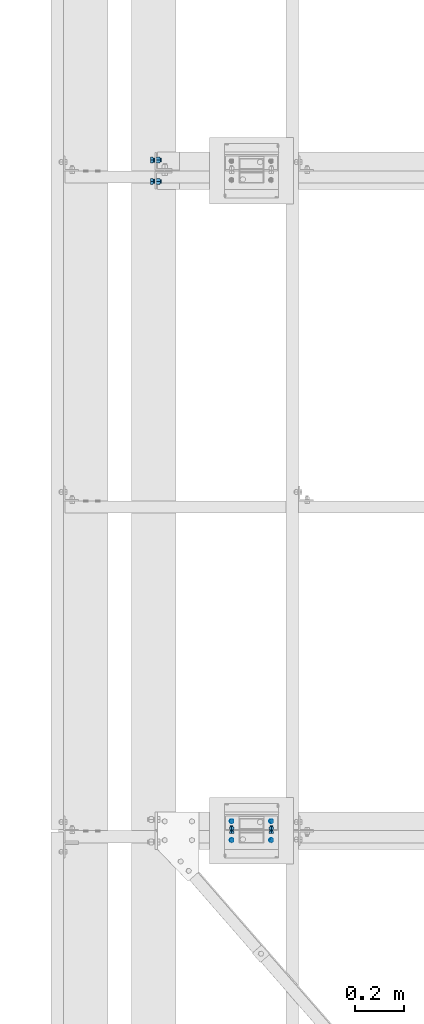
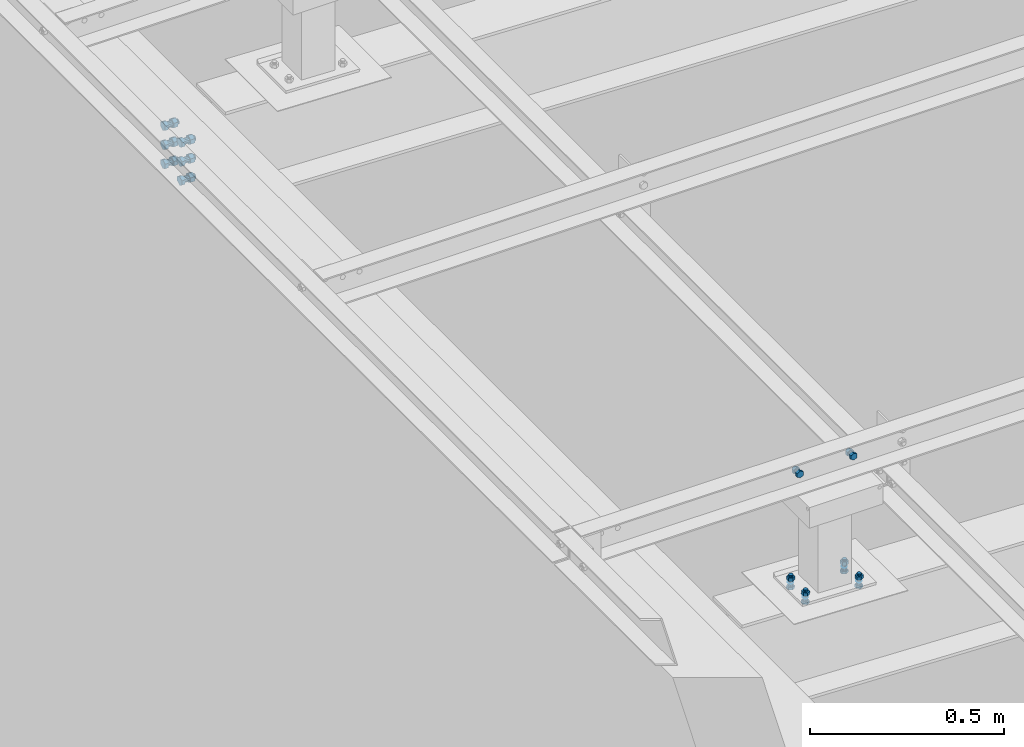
# One storey, part 167 of 3134: 5 mechanical fasteners, 4 elements without a shape of their own.
"""IFC2X3 building model written with IfcOpenShell, lengths in millimetres."""

from ifc_helpers import new_model, si_unit, frame, origin_with_axes, place, context, subcontext, project, spatial, faceted_brep, source, transform, mapped, material, type_object, element, aggregate, save


model = new_model("IFC2X3")

# Units and contexts
model_context = context("Model", 3, precision=1e-05, world=origin_with_axes())
body_context = subcontext(model_context, "Body", "Model", "MODEL_VIEW")
ifc_project = project(units=[si_unit("LENGTHUNIT", "METRE", prefix="MILLI"), si_unit("AREAUNIT", "SQUARE_METRE"), si_unit("VOLUMEUNIT", "CUBIC_METRE"), si_unit("MASSUNIT", "GRAM", prefix="KILO"), si_unit("TIMEUNIT", "SECOND"), si_unit("PLANEANGLEUNIT", "RADIAN"), si_unit("SOLIDANGLEUNIT", "STERADIAN"), si_unit("THERMODYNAMICTEMPERATUREUNIT", "DEGREE_CELSIUS"), si_unit("LUMINOUSINTENSITYUNIT", "LUMEN")], contexts=[model_context])

# Site, building, storey
site_placement = place(None, origin_with_axes())
site = spatial("IfcSite", under=ifc_project, at=site_placement, CompositionType="ELEMENT")
building_placement = place(site_placement, origin_with_axes())
building = spatial("IfcBuilding", under=site, at=building_placement, Name="Undefined", CompositionType="ELEMENT")
storey_placement = place(building_placement, origin_with_axes())
storey = spatial("IfcBuildingStorey", under=building, at=storey_placement, Name="Undefined", CompositionType="ELEMENT", Elevation=0.0)

# Assembly, mechanical fastener
assembly_1_placement = place(storey_placement, origin_with_axes())
assembly_1 = element("IfcElementAssembly", 1, at=assembly_1_placement, inside=storey, AssemblyPlace="NOTDEFINED", PredefinedType="RIGID_FRAME")
ifc_material = material(Name="8.8")
mechanical_fastener_type = type_object("IfcMechanicalFastenerType", Name="Bolt assembly")
shared_shape_1 = source(origin_with_axes(), body_context, "Body", "Brep", [
    faceted_brep([(13.856406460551, -18.5936482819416, 0.0), (6.92820323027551, -18.5936482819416, 12.0), (-6.92820323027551, -18.5936482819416, 12.0), (-13.856406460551, -18.5936482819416, 1.69692038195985e-15), (-6.92820323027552, -18.5936482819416, -12.0), (6.9282032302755, -18.5936482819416, -12.0), (6.9282032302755, -8.59364828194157, -12.0), (-6.92820323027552, -8.59364828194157, -12.0), (-13.856406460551, -8.59364828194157, 1.69692038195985e-15), (-6.92820323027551, -8.59364828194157, 12.0), (6.92820323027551, -8.59364828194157, 12.0), (13.856406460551, -8.59364828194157, 0.0), (8.0, -8.59364828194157, 0.0), (6.92820323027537, -8.59364828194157, 4.00000000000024), (3.99999999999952, -8.59364828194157, 6.92820323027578), (-8.29068785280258e-13, -8.59364828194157, 8.0), (-4.00000000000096, -8.59364828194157, 6.92820323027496), (-6.9282032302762, -8.59364828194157, 3.99999999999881), (-8.0, -8.59364828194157, -1.65813757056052e-12), (-6.92820323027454, -8.59364828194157, -4.00000000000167), (-3.99999999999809, -8.59364828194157, -6.92820323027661), (2.47832457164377e-12, -8.59364828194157, -8.0), (4.00000000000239, -8.59364828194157, -6.92820323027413), (6.92820323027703, -8.59364828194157, -3.99999999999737), (6.92820323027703, 26.4063517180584, -3.99999999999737), (4.00000000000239, 26.4063517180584, -6.92820323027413), (2.47832457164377e-12, 26.4063517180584, -8.0), (-3.99999999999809, 26.4063517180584, -6.92820323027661), (-6.92820323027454, 26.4063517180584, -4.00000000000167), (-8.0, 26.4063517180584, -1.65813757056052e-12), (-6.9282032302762, 26.4063517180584, 3.99999999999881), (-4.00000000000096, 26.4063517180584, 6.92820323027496), (-8.29068785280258e-13, 26.4063517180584, 8.0), (3.99999999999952, 26.4063517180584, 6.92820323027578), (6.92820323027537, 26.4063517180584, 4.00000000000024), (8.0, 26.4063517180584, 0.0), (13.856406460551, 7.0, 0.0), (6.92820323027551, 7.0, 12.0), (-6.92820323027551, 7.0, 12.0), (-13.856406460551, 7.0, 1.69692038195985e-15), (-6.92820323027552, 7.0, -12.0), (6.9282032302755, 7.0, -12.0), (6.9282032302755, 20.0, -12.0), (-6.92820323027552, 20.0, -12.0), (-13.856406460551, 20.0, 1.69692038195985e-15), (-6.92820323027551, 20.0, 12.0), (6.92820323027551, 20.0, 12.0), (13.856406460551, 20.0, 0.0)], [[[0, 1, 2, 3, 4, 5]], [[6, 7, 8, 9, 10, 11]], [[0, 11, 10, 1]], [[1, 10, 9, 2]], [[2, 9, 8, 3]], [[3, 8, 7, 4]], [[4, 7, 6, 5]], [[5, 6, 11, 0]], [[12, 13, 14, 15, 16, 17, 18, 19, 20, 21, 22, 23]], [[24, 25, 26, 27, 28, 29, 30, 31, 32, 33, 34, 35]], [[12, 35, 34, 13]], [[13, 34, 33, 14]], [[14, 33, 32, 15]], [[15, 32, 31, 16]], [[16, 31, 30, 17]], [[17, 30, 29, 18]], [[18, 29, 28, 19]], [[19, 28, 27, 20]], [[20, 27, 26, 21]], [[21, 26, 25, 22]], [[22, 25, 24, 23]], [[23, 24, 35, 12]], [[36, 37, 38, 39, 40, 41]], [[42, 43, 44, 45, 46, 47]], [[36, 47, 46, 37]], [[37, 46, 45, 38]], [[38, 45, 44, 39]], [[39, 44, 43, 40]], [[40, 43, 42, 41]], [[41, 42, 47, 36]]]),
    faceted_brep([(9.0, -8.49364828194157, 0.0), (7.79422863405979, -8.49364828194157, 4.50000000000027), (4.49999999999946, -8.49364828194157, 7.79422863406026), (-9.3270238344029e-13, -8.49364828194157, 9.0), (-4.50000000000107, -8.49364828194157, 7.79422863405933), (-7.79422863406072, -8.49364828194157, 4.49999999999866), (-9.0, -8.49364828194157, -1.86540476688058e-12), (-7.79422863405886, -8.49364828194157, -4.50000000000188), (-4.49999999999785, -8.49364828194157, -7.79422863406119), (2.78811514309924e-12, -8.49364828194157, -9.0), (4.50000000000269, -8.49364828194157, -7.7942286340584), (7.79422863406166, -8.49364828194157, -4.49999999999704), (7.79422863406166, 0.10635209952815, -4.49999999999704), (4.50000000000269, 0.10635209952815, -7.7942286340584), (2.78811514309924e-12, 0.10635209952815, -9.0), (-4.49999999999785, 0.10635209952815, -7.79422863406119), (-7.79422863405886, 0.10635209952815, -4.50000000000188), (-9.0, 0.10635209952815, -1.86540476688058e-12), (-7.79422863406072, 0.10635209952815, 4.49999999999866), (-4.50000000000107, 0.10635209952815, 7.79422863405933), (-9.3270238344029e-13, 0.10635209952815, 9.0), (4.49999999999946, 0.10635209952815, 7.79422863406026), (7.79422863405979, 0.10635209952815, 4.50000000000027), (9.0, 0.10635209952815, 0.0), (9.0, -0.1, 0.0), (7.79422863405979, -0.1, 4.50000000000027), (4.49999999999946, -0.1, 7.79422863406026), (-9.3270238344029e-13, -0.1, 9.0), (-4.50000000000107, -0.1, 7.79422863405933), (-7.79422863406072, -0.1, 4.49999999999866), (-9.0, -0.1, -1.86540476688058e-12), (-7.79422863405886, -0.1, -4.50000000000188), (-4.49999999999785, -0.1, -7.79422863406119), (2.78811514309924e-12, -0.1, -9.0), (4.50000000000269, -0.1, -7.7942286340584), (7.79422863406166, -0.1, -4.49999999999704), (7.79422863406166, 7.0, -4.49999999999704), (4.50000000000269, 7.0, -7.7942286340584), (2.78811514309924e-12, 7.0, -9.0), (-4.49999999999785, 7.0, -7.79422863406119), (-7.79422863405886, 7.0, -4.50000000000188), (-9.0, 7.0, -1.86540476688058e-12), (-7.79422863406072, 7.0, 4.49999999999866), (-4.50000000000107, 7.0, 7.79422863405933), (-9.3270238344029e-13, 7.0, 9.0), (4.49999999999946, 7.0, 7.79422863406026), (7.79422863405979, 7.0, 4.50000000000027), (9.0, 7.0, 0.0)], [[[0, 1, 2, 3, 4, 5, 6, 7, 8, 9, 10, 11]], [[12, 13, 14, 15, 16, 17, 18, 19, 20, 21, 22, 23]], [[0, 23, 22, 1]], [[1, 22, 21, 2]], [[2, 21, 20, 3]], [[3, 20, 19, 4]], [[4, 19, 18, 5]], [[5, 18, 17, 6]], [[6, 17, 16, 7]], [[7, 16, 15, 8]], [[8, 15, 14, 9]], [[9, 14, 13, 10]], [[10, 13, 12, 11]], [[11, 12, 23, 0]], [[24, 25, 26, 27, 28, 29, 30, 31, 32, 33, 34, 35]], [[36, 37, 38, 39, 40, 41, 42, 43, 44, 45, 46, 47]], [[24, 47, 46, 25]], [[25, 46, 45, 26]], [[26, 45, 44, 27]], [[27, 44, 43, 28]], [[28, 43, 42, 29]], [[29, 42, 41, 30]], [[30, 41, 40, 31]], [[31, 40, 39, 32]], [[32, 39, 38, 33]], [[33, 38, 37, 34]], [[34, 37, 36, 35]], [[35, 36, 47, 24]]]),
])
mechanical_fastener_1_placement = place(assembly_1_placement, frame((4.29364809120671, 37624.29, 3841.86727512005), z_axis=(0.0, 1.0, 0.0), x_axis=(0.0, 0.0, 1.0)))
mechanical_fastener_1 = element("IfcMechanicalFastener", 2, at=mechanical_fastener_1_placement, type_object=mechanical_fastener_type, material=ifc_material, Name="Bolt assembly", NominalDiameter=16.0, NominalLength=35.0, context=body_context, shape_type="MappedRepresentation", body=[
    mapped(shared_shape_1, transform((0.0, 0.0, 0.0))),
    mapped(shared_shape_1, transform((59.9999999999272, 0.0, 5.40239852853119e-10))),
    mapped(shared_shape_1, transform((120.0, 0.0, 0.0))),
])
aggregate(assembly_1, [mechanical_fastener_1])

assembly_2_placement = place(storey_placement, origin_with_axes())
assembly_2 = element("IfcElementAssembly", 3, at=assembly_2_placement, inside=storey, AssemblyPlace="NOTDEFINED", PredefinedType="RIGID_FRAME")
mechanical_fastener_2_placement = place(assembly_2_placement, frame((4.29364809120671, 37538.21, 3841.86727512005), z_axis=(0.0, 1.0, 0.0), x_axis=(0.0, 0.0, 1.0)))
mechanical_fastener_2 = element("IfcMechanicalFastener", 4, at=mechanical_fastener_2_placement, type_object=mechanical_fastener_type, material=ifc_material, Name="Bolt assembly", NominalDiameter=16.0, NominalLength=35.0, context=body_context, shape_type="MappedRepresentation", body=[
    mapped(shared_shape_1, transform((0.0, 0.0, 0.0))),
    mapped(shared_shape_1, transform((59.9999999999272, 0.0, 5.40239852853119e-10))),
    mapped(shared_shape_1, transform((120.0, 0.0, 0.0))),
])
aggregate(assembly_2, [mechanical_fastener_2])

assembly_3_placement = place(storey_placement, origin_with_axes())
assembly_3 = element("IfcElementAssembly", 5, at=assembly_3_placement, inside=storey, AssemblyPlace="NOTDEFINED", PredefinedType="RIGID_FRAME")
shared_shape_2 = source(origin_with_axes(), body_context, "Body", "Brep", [
    faceted_brep([(10.9696551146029, -4.19432770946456, 0.0), (5.48482755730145, -4.19432770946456, 9.5), (-5.48482755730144, -4.19432770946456, 9.5), (-10.9696551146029, -4.19432770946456, 1.34339530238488e-15), (-5.48482755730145, -4.19432770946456, -9.5), (5.48482755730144, -4.19432770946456, -9.50000000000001), (5.48482755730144, 3.80567229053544, -9.50000000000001), (-5.48482755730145, 3.80567229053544, -9.5), (-10.9696551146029, 3.80567229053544, 1.34339530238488e-15), (-5.48482755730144, 3.80567229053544, 9.5), (5.48482755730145, 3.80567229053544, 9.5), (10.9696551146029, 3.80567229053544, 0.0), (6.0, 3.80567229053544, 0.0), (5.19615242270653, 3.80567229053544, 3.00000000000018), (2.99999999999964, 3.80567229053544, 5.19615242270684), (-6.21801588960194e-13, 3.80567229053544, 6.0), (-3.00000000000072, 3.80567229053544, 5.19615242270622), (-5.19615242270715, 3.80567229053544, 2.9999999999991), (-6.0, 3.80567229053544, -1.24360317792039e-12), (-5.19615242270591, 3.80567229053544, -3.00000000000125), (-2.99999999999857, 3.80567229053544, -5.19615242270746), (1.85874342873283e-12, 3.80567229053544, -6.0), (3.00000000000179, 3.80567229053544, -5.1961524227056), (5.19615242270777, 3.80567229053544, -2.99999999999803), (5.19615242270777, 38.8056722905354, -2.99999999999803), (3.00000000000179, 38.8056722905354, -5.1961524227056), (1.85874342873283e-12, 38.8056722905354, -6.0), (-2.99999999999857, 38.8056722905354, -5.19615242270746), (-5.19615242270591, 38.8056722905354, -3.00000000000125), (-6.0, 38.8056722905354, -1.24360317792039e-12), (-5.19615242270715, 38.8056722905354, 2.9999999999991), (-3.00000000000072, 38.8056722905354, 5.19615242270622), (-6.21801588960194e-13, 38.8056722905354, 6.0), (2.99999999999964, 38.8056722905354, 5.19615242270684), (5.19615242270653, 38.8056722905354, 3.00000000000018), (6.0, 38.8056722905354, 0.0), (10.9696551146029, 23.0139082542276, 0.0), (5.48482755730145, 23.0139082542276, 9.5), (-5.48482755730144, 23.0139082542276, 9.5), (-10.9696551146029, 23.0139082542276, 1.34339530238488e-15), (-5.48482755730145, 23.0139082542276, -9.5), (5.48482755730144, 23.0139082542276, -9.50000000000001), (5.48482755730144, 33.0139082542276, -9.50000000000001), (-5.48482755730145, 33.0139082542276, -9.5), (-10.9696551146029, 33.0139082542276, 1.34339530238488e-15), (-5.48482755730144, 33.0139082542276, 9.5), (5.48482755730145, 33.0139082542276, 9.5), (10.9696551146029, 33.0139082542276, 0.0)], [[[0, 1, 2, 3, 4, 5]], [[6, 7, 8, 9, 10, 11]], [[0, 11, 10, 1]], [[1, 10, 9, 2]], [[2, 9, 8, 3]], [[3, 8, 7, 4]], [[4, 7, 6, 5]], [[5, 6, 11, 0]], [[12, 13, 14, 15, 16, 17, 18, 19, 20, 21, 22, 23]], [[24, 25, 26, 27, 28, 29, 30, 31, 32, 33, 34, 35]], [[12, 35, 34, 13]], [[13, 34, 33, 14]], [[14, 33, 32, 15]], [[15, 32, 31, 16]], [[16, 31, 30, 17]], [[17, 30, 29, 18]], [[18, 29, 28, 19]], [[19, 28, 27, 20]], [[20, 27, 26, 21]], [[21, 26, 25, 22]], [[22, 25, 24, 23]], [[23, 24, 35, 12]], [[36, 37, 38, 39, 40, 41]], [[42, 43, 44, 45, 46, 47]], [[36, 47, 46, 37]], [[37, 46, 45, 38]], [[38, 45, 44, 39]], [[39, 44, 43, 40]], [[40, 43, 42, 41]], [[41, 42, 47, 36]]]),
    faceted_brep([(7.0, 3.90567229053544, 0.0), (6.06217782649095, 3.90567229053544, 3.50000000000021), (3.49999999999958, 3.90567229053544, 6.06217782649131), (-7.25435187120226e-13, 3.90567229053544, 7.0), (-3.50000000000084, 3.90567229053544, 6.06217782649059), (-6.06217782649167, 3.90567229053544, 3.49999999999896), (-7.0, 3.90567229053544, -1.45087037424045e-12), (-6.06217782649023, 3.90567229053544, -3.50000000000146), (-3.49999999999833, 3.90567229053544, -6.06217782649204), (2.1685340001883e-12, 3.90567229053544, -7.0), (3.50000000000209, 3.90567229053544, -6.06217782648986), (6.0621778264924, 3.90567229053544, -3.4999999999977), (6.0621778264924, 13.1056721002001, -3.4999999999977), (3.50000000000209, 13.1056721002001, -6.06217782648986), (2.1685340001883e-12, 13.1056721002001, -7.0), (-3.49999999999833, 13.1056721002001, -6.06217782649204), (-6.06217782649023, 13.1056721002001, -3.50000000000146), (-7.0, 13.1056721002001, -1.45087037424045e-12), (-6.06217782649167, 13.1056721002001, 3.49999999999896), (-3.50000000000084, 13.1056721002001, 6.06217782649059), (-7.25435187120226e-13, 13.1056721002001, 7.0), (3.49999999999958, 13.1056721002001, 6.06217782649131), (6.06217782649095, 13.1056721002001, 3.50000000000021), (7.0, 13.1056721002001, 0.0), (7.0, 14.9139082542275, 0.0), (6.06217782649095, 14.9139082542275, 3.50000000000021), (3.49999999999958, 14.9139082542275, 6.06217782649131), (-7.25435187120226e-13, 14.9139082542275, 7.0), (-3.50000000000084, 14.9139082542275, 6.06217782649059), (-6.06217782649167, 14.9139082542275, 3.49999999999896), (-7.0, 14.9139082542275, -1.45087037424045e-12), (-6.06217782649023, 14.9139082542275, -3.50000000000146), (-3.49999999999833, 14.9139082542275, -6.06217782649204), (2.1685340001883e-12, 14.9139082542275, -7.0), (3.50000000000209, 14.9139082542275, -6.06217782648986), (6.0621778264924, 14.9139082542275, -3.4999999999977), (6.0621778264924, 23.0139082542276, -3.4999999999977), (3.50000000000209, 23.0139082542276, -6.06217782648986), (2.1685340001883e-12, 23.0139082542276, -7.0), (-3.49999999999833, 23.0139082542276, -6.06217782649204), (-6.06217782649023, 23.0139082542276, -3.50000000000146), (-7.0, 23.0139082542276, -1.45087037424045e-12), (-6.06217782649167, 23.0139082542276, 3.49999999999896), (-3.50000000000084, 23.0139082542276, 6.06217782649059), (-7.25435187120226e-13, 23.0139082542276, 7.0), (3.49999999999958, 23.0139082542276, 6.06217782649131), (6.06217782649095, 23.0139082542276, 3.50000000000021), (7.0, 23.0139082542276, 0.0)], [[[0, 1, 2, 3, 4, 5, 6, 7, 8, 9, 10, 11]], [[12, 13, 14, 15, 16, 17, 18, 19, 20, 21, 22, 23]], [[0, 23, 22, 1]], [[1, 22, 21, 2]], [[2, 21, 20, 3]], [[3, 20, 19, 4]], [[4, 19, 18, 5]], [[5, 18, 17, 6]], [[6, 17, 16, 7]], [[7, 16, 15, 8]], [[8, 15, 14, 9]], [[9, 14, 13, 10]], [[10, 13, 12, 11]], [[11, 12, 23, 0]], [[24, 25, 26, 27, 28, 29, 30, 31, 32, 33, 34, 35]], [[36, 37, 38, 39, 40, 41, 42, 43, 44, 45, 46, 47]], [[24, 47, 46, 25]], [[25, 46, 45, 26]], [[26, 45, 44, 27]], [[27, 44, 43, 28]], [[28, 43, 42, 29]], [[29, 42, 41, 30]], [[30, 41, 40, 31]], [[31, 40, 39, 32]], [[32, 39, 38, 33]], [[33, 38, 37, 34]], [[34, 37, 36, 35]], [[35, 36, 47, 24]]]),
])
mechanical_fastener_3_placement = place(assembly_3_placement, frame((394.193176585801, 34950.4999999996, 4013.19000668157), z_axis=(-0.999387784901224, 0.0, 0.0349865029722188), x_axis=(0.0, -1.0, 0.0)))
mechanical_fastener_3 = element("IfcMechanicalFastener", 6, at=mechanical_fastener_3_placement, type_object=mechanical_fastener_type, material=ifc_material, Name="Bolt assembly", NominalDiameter=12.0, NominalLength=35.0, context=body_context, shape_type="MappedRepresentation", body=[
    mapped(shared_shape_2, transform((0.0, -5.32963895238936e-10, -79.9999999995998))),
    mapped(shared_shape_2, transform((76.0, -5.32963895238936e-10, -79.9999999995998))),
    mapped(shared_shape_2, transform((0.0, 5.3114490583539e-10, 79.9999999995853))),
    mapped(shared_shape_2, transform((76.0, 5.3114490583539e-10, 79.9999999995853))),
])

assembly_4_placement = place(storey_placement, origin_with_axes())
assembly_4 = element("IfcElementAssembly", 7, at=assembly_4_placement, inside=storey, AssemblyPlace="NOTDEFINED", PredefinedType="RIGID_FRAME")
shared_shape_3 = source(origin_with_axes(), body_context, "Body", "Brep", [
    faceted_brep([(7.0, 13.0000253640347, 0.0), (6.06217782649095, 13.0000253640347, 3.50000000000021), (3.49999999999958, 13.0000253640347, 6.06217782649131), (-7.25435187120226e-13, 13.0000253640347, 7.0), (-3.50000000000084, 13.0000253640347, 6.06217782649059), (-6.06217782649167, 13.0000253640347, 3.49999999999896), (-7.0, 13.0000253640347, -1.45087037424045e-12), (-6.06217782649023, 13.0000253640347, -3.50000000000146), (-3.49999999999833, 13.0000253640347, -6.06217782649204), (2.1685340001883e-12, 13.0000253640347, -7.0), (3.50000000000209, 13.0000253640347, -6.06217782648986), (6.0621778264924, 13.0000253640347, -3.4999999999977), (6.0621778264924, 15.0999999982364, -3.4999999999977), (3.50000000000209, 15.0999999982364, -6.06217782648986), (2.1685340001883e-12, 15.0999999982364, -7.0), (-3.49999999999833, 15.0999999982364, -6.06217782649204), (-6.06217782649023, 15.0999999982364, -3.50000000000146), (-7.0, 15.0999999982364, -1.45087037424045e-12), (-6.06217782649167, 15.0999999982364, 3.49999999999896), (-3.50000000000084, 15.0999999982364, 6.06217782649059), (-7.25435187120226e-13, 15.0999999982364, 7.0), (3.49999999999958, 15.0999999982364, 6.06217782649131), (6.06217782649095, 15.0999999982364, 3.50000000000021), (7.0, 15.0999999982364, 0.0)], [[[0, 1, 2, 3, 4, 5, 6, 7, 8, 9, 10, 11]], [[12, 13, 14, 15, 16, 17, 18, 19, 20, 21, 22, 23]], [[0, 23, 22, 1]], [[1, 22, 21, 2]], [[2, 21, 20, 3]], [[3, 20, 19, 4]], [[4, 19, 18, 5]], [[5, 18, 17, 6]], [[6, 17, 16, 7]], [[7, 16, 15, 8]], [[8, 15, 14, 9]], [[9, 14, 13, 10]], [[10, 13, 12, 11]], [[11, 12, 23, 0]]]),
])
mechanical_fastener_4_placement = place(assembly_4_placement, frame((394.193176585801, 34950.4999999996, 4013.19000668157), z_axis=(-0.999387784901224, 0.0, 0.0349865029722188), x_axis=(0.0, -1.0, 0.0)))
mechanical_fastener_4 = element("IfcMechanicalFastener", 8, at=mechanical_fastener_4_placement, type_object=mechanical_fastener_type, material=ifc_material, Name="Bolt assembly", NominalDiameter=12.0, NominalLength=2.0, context=body_context, shape_type="MappedRepresentation", body=[
    mapped(shared_shape_3, transform((0.0, -5.32963895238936e-10, -79.9999999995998))),
    mapped(shared_shape_3, transform((76.0, -5.32963895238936e-10, -79.9999999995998))),
    mapped(shared_shape_3, transform((0.0, 5.3114490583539e-10, 79.9999999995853))),
    mapped(shared_shape_3, transform((76.0, 5.3114490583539e-10, 79.9999999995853))),
])
aggregate(assembly_4, [mechanical_fastener_4])

# Mechanical fastener
shared_shape_4 = source(origin_with_axes(), body_context, "Body", "Brep", [
    faceted_brep([(10.9696551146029, -12.0, 0.0), (5.48482755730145, -12.0, 9.5), (-5.48482755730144, -12.0, 9.5), (-10.9696551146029, -12.0, 1.34339530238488e-15), (-5.48482755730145, -12.0, -9.5), (5.48482755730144, -12.0, -9.50000000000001), (5.48482755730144, -4.0, -9.50000000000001), (-5.48482755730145, -4.0, -9.5), (-10.9696551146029, -4.0, 1.34339530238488e-15), (-5.48482755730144, -4.0, 9.5), (5.48482755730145, -4.0, 9.5), (10.9696551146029, -4.0, 0.0), (6.0, -4.0, 0.0), (5.19615242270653, -4.0, 3.00000000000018), (2.99999999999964, -4.0, 5.19615242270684), (-6.21801588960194e-13, -4.0, 6.0), (-3.00000000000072, -4.0, 5.19615242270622), (-5.19615242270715, -4.0, 2.9999999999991), (-6.0, -4.0, -1.24360317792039e-12), (-5.19615242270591, -4.0, -3.00000000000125), (-2.99999999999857, -4.0, -5.19615242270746), (1.85874342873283e-12, -4.0, -6.0), (3.00000000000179, -4.0, -5.1961524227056), (5.19615242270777, -4.0, -2.99999999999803), (5.19615242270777, 21.0, -2.99999999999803), (3.00000000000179, 21.0, -5.1961524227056), (1.85874342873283e-12, 21.0, -6.0), (-2.99999999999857, 21.0, -5.19615242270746), (-5.19615242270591, 21.0, -3.00000000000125), (-6.0, 21.0, -1.24360317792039e-12), (-5.19615242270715, 21.0, 2.9999999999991), (-3.00000000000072, 21.0, 5.19615242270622), (-6.21801588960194e-13, 21.0, 6.0), (2.99999999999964, 21.0, 5.19615242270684), (5.19615242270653, 21.0, 3.00000000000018), (6.0, 21.0, 0.0), (10.9696551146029, 6.00000000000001, 0.0), (5.48482755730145, 6.00000000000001, 9.5), (-5.48482755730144, 6.00000000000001, 9.5), (-10.9696551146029, 6.00000000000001, 1.34339530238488e-15), (-5.48482755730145, 6.00000000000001, -9.5), (5.48482755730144, 6.00000000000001, -9.50000000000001), (5.48482755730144, 16.0, -9.50000000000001), (-5.48482755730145, 16.0, -9.5), (-10.9696551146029, 16.0, 1.34339530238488e-15), (-5.48482755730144, 16.0, 9.5), (5.48482755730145, 16.0, 9.5), (10.9696551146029, 16.0, 0.0)], [[[0, 1, 2, 3, 4, 5]], [[6, 7, 8, 9, 10, 11]], [[0, 11, 10, 1]], [[1, 10, 9, 2]], [[2, 9, 8, 3]], [[3, 8, 7, 4]], [[4, 7, 6, 5]], [[5, 6, 11, 0]], [[12, 13, 14, 15, 16, 17, 18, 19, 20, 21, 22, 23]], [[24, 25, 26, 27, 28, 29, 30, 31, 32, 33, 34, 35]], [[12, 35, 34, 13]], [[13, 34, 33, 14]], [[14, 33, 32, 15]], [[15, 32, 31, 16]], [[16, 31, 30, 17]], [[17, 30, 29, 18]], [[18, 29, 28, 19]], [[19, 28, 27, 20]], [[20, 27, 26, 21]], [[21, 26, 25, 22]], [[22, 25, 24, 23]], [[23, 24, 35, 12]], [[36, 37, 38, 39, 40, 41]], [[42, 43, 44, 45, 46, 47]], [[36, 47, 46, 37]], [[37, 46, 45, 38]], [[38, 45, 44, 39]], [[39, 44, 43, 40]], [[40, 43, 42, 41]], [[41, 42, 47, 36]]]),
    faceted_brep([(7.0, -3.9, 0.0), (6.06217782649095, -3.9, 3.50000000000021), (3.49999999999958, -3.9, 6.06217782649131), (-7.25435187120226e-13, -3.9, 7.0), (-3.50000000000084, -3.9, 6.06217782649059), (-6.06217782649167, -3.9, 3.49999999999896), (-7.0, -3.9, -1.45087037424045e-12), (-6.06217782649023, -3.9, -3.50000000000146), (-3.49999999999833, -3.9, -6.06217782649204), (2.1685340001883e-12, -3.9, -7.0), (3.50000000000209, -3.9, -6.06217782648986), (6.0621778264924, -3.9, -3.4999999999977), (6.0621778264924, 0.0999999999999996, -3.4999999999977), (3.50000000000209, 0.0999999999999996, -6.06217782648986), (2.1685340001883e-12, 0.0999999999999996, -7.0), (-3.49999999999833, 0.0999999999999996, -6.06217782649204), (-6.06217782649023, 0.0999999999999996, -3.50000000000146), (-7.0, 0.0999999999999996, -1.45087037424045e-12), (-6.06217782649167, 0.0999999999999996, 3.49999999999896), (-3.50000000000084, 0.0999999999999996, 6.06217782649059), (-7.25435187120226e-13, 0.0999999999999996, 7.0), (3.49999999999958, 0.0999999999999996, 6.06217782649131), (6.06217782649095, 0.0999999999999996, 3.50000000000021), (7.0, 0.0999999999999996, 0.0), (7.0, -0.1, 0.0), (6.06217782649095, -0.1, 3.50000000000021), (3.49999999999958, -0.1, 6.06217782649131), (-7.25435187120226e-13, -0.1, 7.0), (-3.50000000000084, -0.1, 6.06217782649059), (-6.06217782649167, -0.1, 3.49999999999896), (-7.0, -0.1, -1.45087037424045e-12), (-6.06217782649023, -0.1, -3.50000000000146), (-3.49999999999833, -0.1, -6.06217782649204), (2.1685340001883e-12, -0.1, -7.0), (3.50000000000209, -0.1, -6.06217782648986), (6.0621778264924, -0.1, -3.4999999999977), (6.0621778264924, 6.00000000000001, -3.4999999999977), (3.50000000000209, 6.00000000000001, -6.06217782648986), (2.1685340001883e-12, 6.00000000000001, -7.0), (-3.49999999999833, 6.00000000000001, -6.06217782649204), (-6.06217782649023, 6.00000000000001, -3.50000000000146), (-7.0, 6.00000000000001, -1.45087037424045e-12), (-6.06217782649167, 6.00000000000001, 3.49999999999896), (-3.50000000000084, 6.00000000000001, 6.06217782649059), (-7.25435187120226e-13, 6.00000000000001, 7.0), (3.49999999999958, 6.00000000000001, 6.06217782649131), (6.06217782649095, 6.00000000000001, 3.50000000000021), (7.0, 6.00000000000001, 0.0)], [[[0, 1, 2, 3, 4, 5, 6, 7, 8, 9, 10, 11]], [[12, 13, 14, 15, 16, 17, 18, 19, 20, 21, 22, 23]], [[0, 23, 22, 1]], [[1, 22, 21, 2]], [[2, 21, 20, 3]], [[3, 20, 19, 4]], [[4, 19, 18, 5]], [[5, 18, 17, 6]], [[6, 17, 16, 7]], [[7, 16, 15, 8]], [[8, 15, 14, 9]], [[9, 14, 13, 10]], [[10, 13, 12, 11]], [[11, 12, 23, 0]], [[24, 25, 26, 27, 28, 29, 30, 31, 32, 33, 34, 35]], [[36, 37, 38, 39, 40, 41, 42, 43, 44, 45, 46, 47]], [[24, 47, 46, 25]], [[25, 46, 45, 26]], [[26, 45, 44, 27]], [[27, 44, 43, 28]], [[28, 43, 42, 29]], [[29, 42, 41, 30]], [[30, 41, 40, 31]], [[31, 40, 39, 32]], [[32, 39, 38, 33]], [[33, 38, 37, 34]], [[34, 37, 36, 35]], [[35, 36, 47, 24]]]),
])
mechanical_fastener_5_placement = place(assembly_3_placement, frame((394.999950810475, 34912.499683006, 4400.0), z_axis=(1.0, 0.0, 0.0), x_axis=(0.0, 0.0, -1.0)))
mechanical_fastener_5 = element("IfcMechanicalFastener", 9, at=mechanical_fastener_5_placement, type_object=mechanical_fastener_type, material=ifc_material, Name="Bolt assembly", NominalDiameter=12.0, NominalLength=25.0, context=body_context, shape_type="MappedRepresentation", body=[
    mapped(shared_shape_4, transform((0.0, -5.32963895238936e-10, -79.9999999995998))),
    mapped(shared_shape_4, transform((0.0, 5.3114490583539e-10, 79.9999999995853))),
])

aggregate(assembly_3, [mechanical_fastener_3, mechanical_fastener_5])

save(model, "model.ifc")
